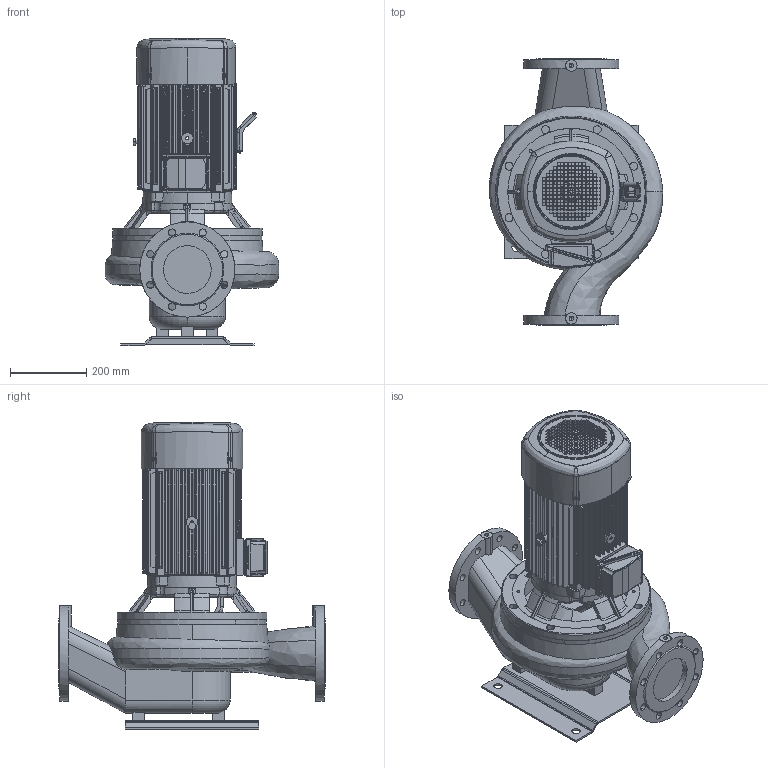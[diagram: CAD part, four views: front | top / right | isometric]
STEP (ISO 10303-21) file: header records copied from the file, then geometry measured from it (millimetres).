
FILE_DESCRIPTION(('STEP AP214'),'1');
FILE_NAME('export.stp','2018-05-28T10:35:18',(' '),(' '),'Spatial InterOp 3D',' ',' ');
FILE_SCHEMA(('AUTOMOTIVE_DESIGN { 1 0 10303 214 1 1 1 1 }'));
Length unit declared in the file: millimetre
Products named in the file (17): W_AL1129475_KP134; V_TLL100SAL1202; P100496; P100495; P100342; V_PPAL1129; V_MKP134-H2_F31; G35929; G23890; G35875; 24111; G24110_b; G43699; R200882; R200929; DIN_EN_24017-M10x20; R201240
Assembly tree (19 placements, depth 4):
  W_AL1129475_KP134
    V_TLL100SAL1202
    P100496
      P100495  x2
      P100342
    V_PPAL1129
    V_MKP134-H2_F31
      G35929
      G23890
      G35875
        24111
        G24110_b
      G43699
      R200882
      R200929  x2
      DIN_EN_24017-M10x20  x2
      R201240
Bounding box: 455.61 x 700 x 807 mm (x, y, z)
Volume: 33239525.5 mm3; surface area: 3359379.4 mm2
Topology: 16 solids, 16 shells, 3682 faces, 10370 edges, 6677 vertices
Faces by surface type: plane 1592, cylinder 1200, bspline 423, cone 255, torus 183, sphere 29
Entity records: 191681 total; most frequent: CARTESIAN_POINT 70963, ORIENTED_EDGE 19806, DIRECTION 17280, EDGE_CURVE 9903, VERTEX_POINT 6419, AXIS2_PLACEMENT_3D 6072, LINE 5136, VECTOR 5136
